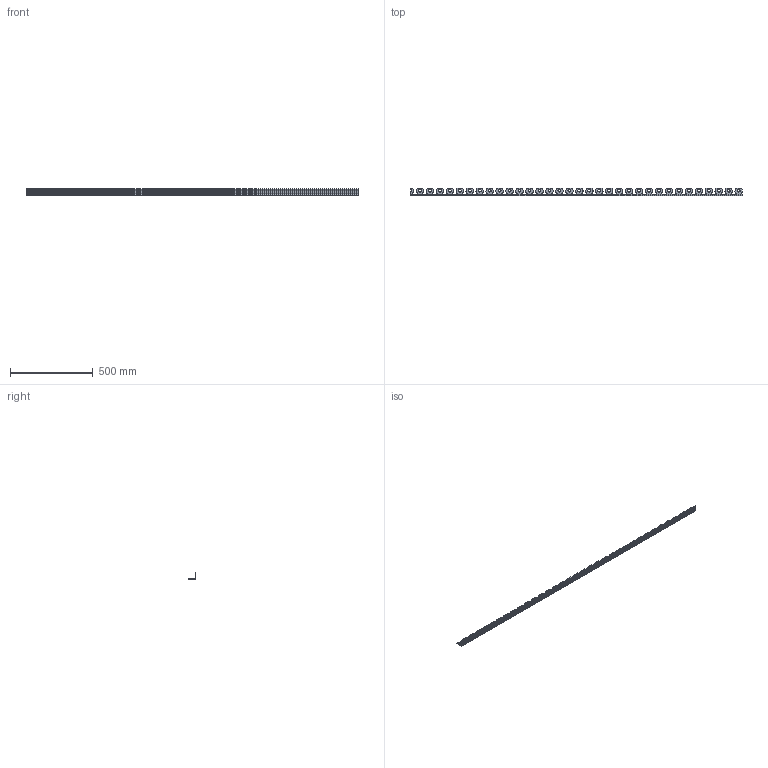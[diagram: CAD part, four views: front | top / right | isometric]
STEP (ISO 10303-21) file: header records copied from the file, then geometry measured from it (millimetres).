
FILE_DESCRIPTION(('STEP AP214'), '1');
FILE_NAME('Áîðäþð_38õ44 L=2ì', '', ('UNSPECIFIED'), ('UNSPECIFIED'), 'ASCON STEP Converter 1.3', 'ASCON Math Kernel', '');
FILE_SCHEMA(('AUTOMOTIVE_DESIGN { 1 0 10303 214 3 1 1}'));
Length unit declared in the file: millimetre
Bounding box: 2000 x 44.2 x 38 mm (x, y, z)
Volume: 397894.8 mm3; surface area: 272096.9 mm2
Topology: 1 solids, 1 shells, 446 faces, 1332 edges, 888 vertices
Faces by surface type: plane 241, cylinder 205
Full cylindrical faces by diameter (mm): 17 x33
Entity records: 18495 total; most frequent: CARTESIAN_POINT 3540, ORIENTED_EDGE 2598, DIRECTION 2065, EDGE_CURVE 1299, LINE 889, VECTOR 889, VERTEX_POINT 888, AXIS2_PLACEMENT_3D 588
